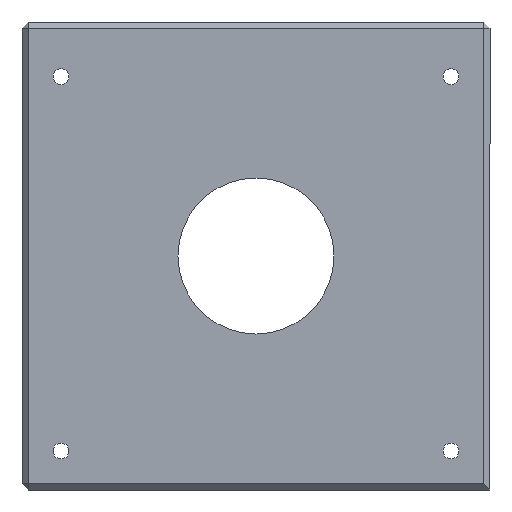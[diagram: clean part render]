
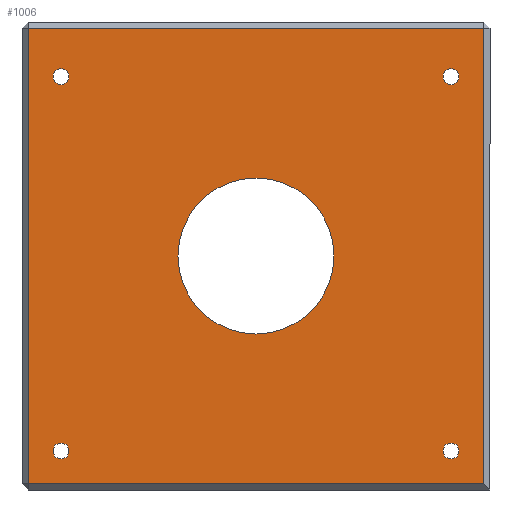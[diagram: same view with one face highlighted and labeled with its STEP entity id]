
A CAD part, front view. The second image highlights one B-rep face of the part: STEP entity #1006.
In plain terms, the highlighted planar face has unit normal (0, -1, 0).
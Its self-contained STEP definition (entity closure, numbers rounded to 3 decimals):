
#6 = CARTESIAN_POINT ( 'NONE',  ( 62.5, 0., 57.5 ) ) ;
#14 = VERTEX_POINT ( 'NONE', #1206 ) ;
#17 = LINE ( 'NONE', #1348, #1397 ) ;
#34 = CIRCLE ( 'NONE', #1249, 2.55 ) ;
#53 = CARTESIAN_POINT ( 'NONE',  ( 62.5, 0., 54.95 ) ) ;
#95 = AXIS2_PLACEMENT_3D ( 'NONE', #1473, #1631, #502 ) ;
#106 = CARTESIAN_POINT ( 'NONE',  ( 62.5, 0., -62.5 ) ) ;
#114 = CARTESIAN_POINT ( 'NONE',  ( -62.5, 0., -59.95 ) ) ;
#122 = CARTESIAN_POINT ( 'NONE',  ( -62.5, 0., -62.5 ) ) ;
#127 = FACE_BOUND ( 'NONE', #1244, .T. ) ;
#147 = DIRECTION ( 'NONE',  ( 0., 1., 0. ) ) ;
#164 = DIRECTION ( 'NONE',  ( 0., 0., 1. ) ) ;
#165 = AXIS2_PLACEMENT_3D ( 'NONE', #106, #1650, #1790 ) ;
#169 = FACE_BOUND ( 'NONE', #356, .T. ) ;
#175 = VERTEX_POINT ( 'NONE', #702 ) ;
#180 = ORIENTED_EDGE ( 'NONE', *, *, #1495, .T. ) ;
#183 = EDGE_CURVE ( 'NONE', #445, #175, #966, .T. ) ;
#190 = DIRECTION ( 'NONE',  ( 0., 1., 0. ) ) ;
#227 = AXIS2_PLACEMENT_3D ( 'NONE', #1223, #384, #1358 ) ;
#270 = AXIS2_PLACEMENT_3D ( 'NONE', #1108, #147, #981 ) ;
#272 = CARTESIAN_POINT ( 'NONE',  ( 62.5, 0., -62.5 ) ) ;
#275 = VECTOR ( 'NONE', #787, 1000. ) ;
#287 = EDGE_CURVE ( 'NONE', #663, #1203, #34, .T. ) ;
#327 = EDGE_LOOP ( 'NONE', ( #180, #536, #529, #1461 ) ) ;
#329 = CIRCLE ( 'NONE', #1143, 2.55 ) ;
#347 = EDGE_CURVE ( 'NONE', #1248, #1515, #1510, .T. ) ;
#356 = EDGE_LOOP ( 'NONE', ( #498, #1636 ) ) ;
#369 = EDGE_LOOP ( 'NONE', ( #1302, #906 ) ) ;
#373 = VECTOR ( 'NONE', #164, 1000. ) ;
#384 = DIRECTION ( 'NONE',  ( 0., 1., 0. ) ) ;
#403 = AXIS2_PLACEMENT_3D ( 'NONE', #672, #1665, #822 ) ;
#405 = DIRECTION ( 'NONE',  ( 0., 0., 1. ) ) ;
#423 = DIRECTION ( 'NONE',  ( -1., 0., 0. ) ) ;
#445 = VERTEX_POINT ( 'NONE', #968 ) ;
#448 = ORIENTED_EDGE ( 'NONE', *, *, #689, .T. ) ;
#453 = AXIS2_PLACEMENT_3D ( 'NONE', #692, #555, #1376 ) ;
#479 = CARTESIAN_POINT ( 'NONE',  ( 0., 0., -25. ) ) ;
#491 = CIRCLE ( 'NONE', #270, 2.55 ) ;
#493 = CARTESIAN_POINT ( 'NONE',  ( 62.5, 0., -59.95 ) ) ;
#495 = FACE_BOUND ( 'NONE', #957, .T. ) ;
#498 = ORIENTED_EDGE ( 'NONE', *, *, #915, .T. ) ;
#502 = DIRECTION ( 'NONE',  ( 0., 0., 1. ) ) ;
#510 = VERTEX_POINT ( 'NONE', #493 ) ;
#512 = ORIENTED_EDGE ( 'NONE', *, *, #183, .T. ) ;
#518 = DIRECTION ( 'NONE',  ( 0., 0., -1. ) ) ;
#529 = ORIENTED_EDGE ( 'NONE', *, *, #993, .T. ) ;
#536 = ORIENTED_EDGE ( 'NONE', *, *, #347, .T. ) ;
#555 = DIRECTION ( 'NONE',  ( 0., 1., 0. ) ) ;
#572 = VERTEX_POINT ( 'NONE', #479 ) ;
#578 = EDGE_CURVE ( 'NONE', #510, #838, #949, .T. ) ;
#612 = ORIENTED_EDGE ( 'NONE', *, *, #1728, .T. ) ;
#635 = VERTEX_POINT ( 'NONE', #765 ) ;
#642 = CARTESIAN_POINT ( 'NONE',  ( 0., 0., 0. ) ) ;
#648 = DIRECTION ( 'NONE',  ( 0., 0., 1. ) ) ;
#663 = VERTEX_POINT ( 'NONE', #905 ) ;
#672 = CARTESIAN_POINT ( 'NONE',  ( 0., 0., 0. ) ) ;
#689 = EDGE_CURVE ( 'NONE', #572, #777, #1239, .T. ) ;
#692 = CARTESIAN_POINT ( 'NONE',  ( 62.5, 0., 57.5 ) ) ;
#702 = CARTESIAN_POINT ( 'NONE',  ( -62.5, 0., 60.05 ) ) ;
#745 = CIRCLE ( 'NONE', #1524, 2.55 ) ;
#765 = CARTESIAN_POINT ( 'NONE',  ( -73., 0., 73. ) ) ;
#777 = VERTEX_POINT ( 'NONE', #1064 ) ;
#787 = DIRECTION ( 'NONE',  ( 1., 0., 0. ) ) ;
#815 = CARTESIAN_POINT ( 'NONE',  ( 62.5, 0., -65.05 ) ) ;
#822 = DIRECTION ( 'NONE',  ( 0., 0., 1. ) ) ;
#827 = LINE ( 'NONE', #1252, #1270 ) ;
#830 = FACE_BOUND ( 'NONE', #1446, .T. ) ;
#838 = VERTEX_POINT ( 'NONE', #815 ) ;
#839 = DIRECTION ( 'NONE',  ( 0., 0., 1. ) ) ;
#845 = EDGE_CURVE ( 'NONE', #175, #445, #1107, .T. ) ;
#853 = EDGE_CURVE ( 'NONE', #777, #572, #1483, .T. ) ;
#877 = ORIENTED_EDGE ( 'NONE', *, *, #287, .T. ) ;
#905 = CARTESIAN_POINT ( 'NONE',  ( 62.5, 0., 60.05 ) ) ;
#906 = ORIENTED_EDGE ( 'NONE', *, *, #1681, .T. ) ;
#915 = EDGE_CURVE ( 'NONE', #838, #510, #329, .T. ) ;
#918 = AXIS2_PLACEMENT_3D ( 'NONE', #642, #1593, #648 ) ;
#921 = CARTESIAN_POINT ( 'NONE',  ( 75., 0., -73. ) ) ;
#949 = CIRCLE ( 'NONE', #165, 2.55 ) ;
#957 = EDGE_LOOP ( 'NONE', ( #512, #1113 ) ) ;
#966 = CIRCLE ( 'NONE', #1780, 2.55 ) ;
#968 = CARTESIAN_POINT ( 'NONE',  ( -62.5, 0., 54.95 ) ) ;
#972 = EDGE_CURVE ( 'NONE', #14, #1460, #745, .T. ) ;
#981 = DIRECTION ( 'NONE',  ( 0., 0., 1. ) ) ;
#993 = EDGE_CURVE ( 'NONE', #1515, #1560, #1619, .T. ) ;
#1006 = ADVANCED_FACE ( 'NONE', ( #1566, #127, #495, #1186, #830, #169 ), #1054, .F. ) ;
#1054 = PLANE ( 'NONE',  #95 ) ;
#1064 = CARTESIAN_POINT ( 'NONE',  ( 0., 0., 25. ) ) ;
#1084 = CARTESIAN_POINT ( 'NONE',  ( 73., 0., 75. ) ) ;
#1107 = CIRCLE ( 'NONE', #227, 2.55 ) ;
#1108 = CARTESIAN_POINT ( 'NONE',  ( -62.5, 0., -62.5 ) ) ;
#1113 = ORIENTED_EDGE ( 'NONE', *, *, #845, .T. ) ;
#1143 = AXIS2_PLACEMENT_3D ( 'NONE', #272, #1238, #405 ) ;
#1185 = CARTESIAN_POINT ( 'NONE',  ( -73., 0., -73. ) ) ;
#1186 = FACE_BOUND ( 'NONE', #369, .T. ) ;
#1203 = VERTEX_POINT ( 'NONE', #53 ) ;
#1206 = CARTESIAN_POINT ( 'NONE',  ( -62.5, 0., -65.05 ) ) ;
#1223 = CARTESIAN_POINT ( 'NONE',  ( -62.5, 0., 57.5 ) ) ;
#1238 = DIRECTION ( 'NONE',  ( 0., 1., 0. ) ) ;
#1239 = CIRCLE ( 'NONE', #918, 25. ) ;
#1244 = EDGE_LOOP ( 'NONE', ( #448, #1364 ) ) ;
#1248 = VERTEX_POINT ( 'NONE', #1185 ) ;
#1249 = AXIS2_PLACEMENT_3D ( 'NONE', #6, #1584, #1730 ) ;
#1252 = CARTESIAN_POINT ( 'NONE',  ( 0., 0., 73. ) ) ;
#1254 = CARTESIAN_POINT ( 'NONE',  ( -62.5, 0., 57.5 ) ) ;
#1270 = VECTOR ( 'NONE', #423, 1000. ) ;
#1302 = ORIENTED_EDGE ( 'NONE', *, *, #972, .T. ) ;
#1312 = CARTESIAN_POINT ( 'NONE',  ( 73., 0., 73. ) ) ;
#1348 = CARTESIAN_POINT ( 'NONE',  ( -73., 0., 0. ) ) ;
#1358 = DIRECTION ( 'NONE',  ( 0., 0., 1. ) ) ;
#1364 = ORIENTED_EDGE ( 'NONE', *, *, #853, .T. ) ;
#1376 = DIRECTION ( 'NONE',  ( 0., 0., 1. ) ) ;
#1396 = DIRECTION ( 'NONE',  ( 0., 0., 1. ) ) ;
#1397 = VECTOR ( 'NONE', #518, 1000. ) ;
#1446 = EDGE_LOOP ( 'NONE', ( #612, #877 ) ) ;
#1460 = VERTEX_POINT ( 'NONE', #114 ) ;
#1461 = ORIENTED_EDGE ( 'NONE', *, *, #1670, .T. ) ;
#1465 = CIRCLE ( 'NONE', #453, 2.55 ) ;
#1473 = CARTESIAN_POINT ( 'NONE',  ( 0., 0., 0. ) ) ;
#1483 = CIRCLE ( 'NONE', #403, 25. ) ;
#1495 = EDGE_CURVE ( 'NONE', #635, #1248, #17, .T. ) ;
#1510 = LINE ( 'NONE', #921, #275 ) ;
#1515 = VERTEX_POINT ( 'NONE', #1760 ) ;
#1524 = AXIS2_PLACEMENT_3D ( 'NONE', #122, #1547, #839 ) ;
#1547 = DIRECTION ( 'NONE',  ( 0., 1., 0. ) ) ;
#1560 = VERTEX_POINT ( 'NONE', #1312 ) ;
#1566 = FACE_OUTER_BOUND ( 'NONE', #327, .T. ) ;
#1584 = DIRECTION ( 'NONE',  ( 0., 1., 0. ) ) ;
#1593 = DIRECTION ( 'NONE',  ( 0., 1., 0. ) ) ;
#1619 = LINE ( 'NONE', #1084, #373 ) ;
#1631 = DIRECTION ( 'NONE',  ( 0., 1., 0. ) ) ;
#1636 = ORIENTED_EDGE ( 'NONE', *, *, #578, .T. ) ;
#1650 = DIRECTION ( 'NONE',  ( 0., 1., 0. ) ) ;
#1665 = DIRECTION ( 'NONE',  ( 0., 1., 0. ) ) ;
#1670 = EDGE_CURVE ( 'NONE', #1560, #635, #827, .T. ) ;
#1681 = EDGE_CURVE ( 'NONE', #1460, #14, #491, .T. ) ;
#1728 = EDGE_CURVE ( 'NONE', #1203, #663, #1465, .T. ) ;
#1730 = DIRECTION ( 'NONE',  ( 0., 0., 1. ) ) ;
#1760 = CARTESIAN_POINT ( 'NONE',  ( 73., 0., -73. ) ) ;
#1780 = AXIS2_PLACEMENT_3D ( 'NONE', #1254, #190, #1396 ) ;
#1790 = DIRECTION ( 'NONE',  ( 0., 0., 1. ) ) ;
